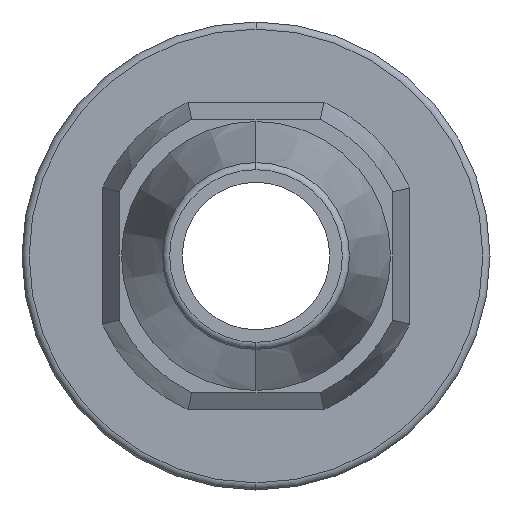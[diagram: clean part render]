
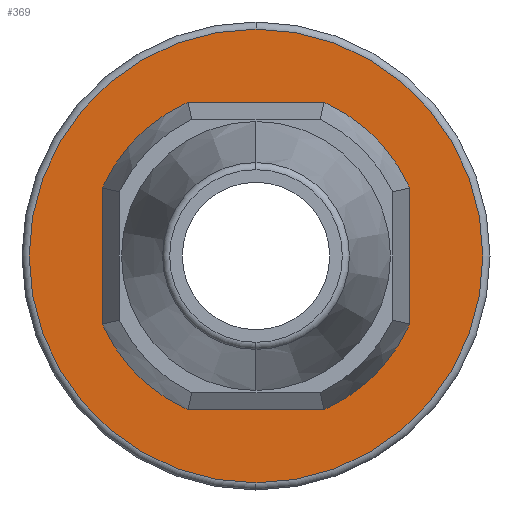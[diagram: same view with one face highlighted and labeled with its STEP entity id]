
A CAD part, left-side view. The second image highlights one B-rep face of the part: STEP entity #369.
In plain terms, the highlighted planar face has unit normal (-1, 0, 0).
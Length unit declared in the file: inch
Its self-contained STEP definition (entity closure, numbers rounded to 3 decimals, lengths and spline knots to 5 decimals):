
#117 = EDGE_CURVE ( 'NONE', #149, #1505, #716, .T. ) ;
#149 = VERTEX_POINT ( 'NONE', #876 ) ;
#298 = VERTEX_POINT ( 'NONE', #1073 ) ;
#300 = EDGE_CURVE ( 'NONE', #301, #298, #1072, .T. ) ;
#301 = VERTEX_POINT ( 'NONE', #1067 ) ;
#366 = ORIENTED_EDGE ( 'NONE', *, *, #497, .F. ) ;
#369 = ADVANCED_FACE ( 'NONE', ( #1038, #1037 ), #1036, .F. ) ;
#495 = ORIENTED_EDGE ( 'NONE', *, *, #117, .F. ) ;
#496 = EDGE_LOOP ( 'NONE', ( #524, #530 ) ) ;
#497 = EDGE_CURVE ( 'NONE', #1505, #149, #1454, .T. ) ;
#498 = EDGE_CURVE ( 'NONE', #298, #301, #1450, .T. ) ;
#503 = EDGE_LOOP ( 'NONE', ( #495, #366 ) ) ;
#524 = ORIENTED_EDGE ( 'NONE', *, *, #300, .T. ) ;
#530 = ORIENTED_EDGE ( 'NONE', *, *, #498, .T. ) ;
#712 = DIRECTION ( 'NONE',  ( 0., 0., 1. ) ) ;
#713 = DIRECTION ( 'NONE',  ( -1., 0., 0. ) ) ;
#714 = CARTESIAN_POINT ( 'NONE',  ( 0.647, 0., 0. ) ) ;
#715 = AXIS2_PLACEMENT_3D ( 'NONE', #714, #713, #712 ) ;
#716 = CIRCLE ( 'NONE', #715, 0.103 ) ;
#876 = CARTESIAN_POINT ( 'NONE',  ( 0.647, 0., 0.103 ) ) ;
#1032 = DIRECTION ( 'NONE',  ( 0., 0., -1. ) ) ;
#1033 = DIRECTION ( 'NONE',  ( 1., 0., 0. ) ) ;
#1034 = CARTESIAN_POINT ( 'NONE',  ( 0.647, 0.103, 0. ) ) ;
#1035 = AXIS2_PLACEMENT_3D ( 'NONE', #1034, #1033, #1032 ) ;
#1036 = PLANE ( 'NONE',  #1035 ) ;
#1037 = FACE_OUTER_BOUND ( 'NONE', #496, .T. ) ;
#1038 = FACE_BOUND ( 'NONE', #503, .T. ) ;
#1067 = CARTESIAN_POINT ( 'NONE',  ( 0.647, 0., 0.1585 ) ) ;
#1068 = DIRECTION ( 'NONE',  ( 0., 0., 1. ) ) ;
#1069 = DIRECTION ( 'NONE',  ( -1., 0., 0. ) ) ;
#1070 = CARTESIAN_POINT ( 'NONE',  ( 0.647, 0., 0. ) ) ;
#1071 = AXIS2_PLACEMENT_3D ( 'NONE', #1070, #1069, #1068 ) ;
#1072 = CIRCLE ( 'NONE', #1071, 0.1585 ) ;
#1073 = CARTESIAN_POINT ( 'NONE',  ( 0.647, 0., -0.1585 ) ) ;
#1446 = DIRECTION ( 'NONE',  ( 0., 0., 1. ) ) ;
#1447 = DIRECTION ( 'NONE',  ( -1., 0., 0. ) ) ;
#1448 = CARTESIAN_POINT ( 'NONE',  ( 0.647, 0., 0. ) ) ;
#1449 = AXIS2_PLACEMENT_3D ( 'NONE', #1448, #1447, #1446 ) ;
#1450 = CIRCLE ( 'NONE', #1449, 0.1585 ) ;
#1451 = DIRECTION ( 'NONE',  ( 0., 0., 1. ) ) ;
#1452 = DIRECTION ( 'NONE',  ( -1., 0., 0. ) ) ;
#1453 = AXIS2_PLACEMENT_3D ( 'NONE', #1459, #1452, #1451 ) ;
#1454 = CIRCLE ( 'NONE', #1453, 0.103 ) ;
#1459 = CARTESIAN_POINT ( 'NONE',  ( 0.647, 0., 0. ) ) ;
#1505 = VERTEX_POINT ( 'NONE', #1595 ) ;
#1595 = CARTESIAN_POINT ( 'NONE',  ( 0.647, 0., -0.103 ) ) ;
